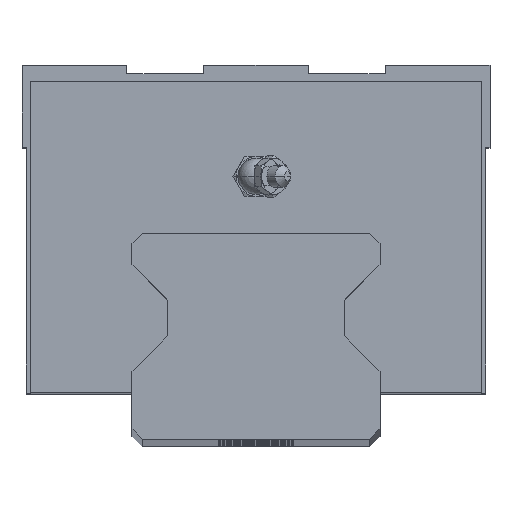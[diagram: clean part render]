
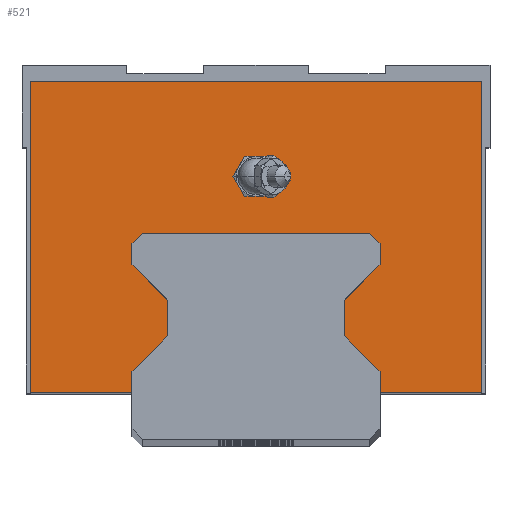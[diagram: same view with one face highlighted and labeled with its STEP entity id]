
A CAD part, top view. The second image highlights one B-rep face of the part: STEP entity #521.
In plain terms, the highlighted planar face has unit normal (0, 0, 1).
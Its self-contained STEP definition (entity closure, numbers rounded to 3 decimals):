
#521=ADVANCED_FACE('',(#1237,#1238),#1239,.T.);
#1237=FACE_BOUND('',#2170,.T.);
#1238=FACE_OUTER_BOUND('',#2171,.T.);
#1239=PLANE('',#2172);
#2170=EDGE_LOOP('',(#3645,#3646));
#2171=EDGE_LOOP('',(#3647,#3648,#3649,#3650,#3651,#3652,#3653,#3654,#3655,#3656,#3657,#3658,#3659,#3660,#3661,#3662,#3663,#3664));
#2172=AXIS2_PLACEMENT_3D('',#3665,#3666,#3667);
#3645=ORIENTED_EDGE('',*,*,#5801,.T.);
#3646=ORIENTED_EDGE('',*,*,#5802,.T.);
#3647=ORIENTED_EDGE('',*,*,#5511,.F.);
#3648=ORIENTED_EDGE('',*,*,#5803,.F.);
#3649=ORIENTED_EDGE('',*,*,#5804,.F.);
#3650=ORIENTED_EDGE('',*,*,#5805,.F.);
#3651=ORIENTED_EDGE('',*,*,#5806,.F.);
#3652=ORIENTED_EDGE('',*,*,#5782,.F.);
#3653=ORIENTED_EDGE('',*,*,#5807,.F.);
#3654=ORIENTED_EDGE('',*,*,#5808,.F.);
#3655=ORIENTED_EDGE('',*,*,#5809,.F.);
#3656=ORIENTED_EDGE('',*,*,#5810,.F.);
#3657=ORIENTED_EDGE('',*,*,#5737,.F.);
#3658=ORIENTED_EDGE('',*,*,#5469,.F.);
#3659=ORIENTED_EDGE('',*,*,#5758,.F.);
#3660=ORIENTED_EDGE('',*,*,#5614,.F.);
#3661=ORIENTED_EDGE('',*,*,#5533,.F.);
#3662=ORIENTED_EDGE('',*,*,#5811,.F.);
#3663=ORIENTED_EDGE('',*,*,#5812,.F.);
#3664=ORIENTED_EDGE('',*,*,#5813,.F.);
#3665=CARTESIAN_POINT('',(0.,44.42,-58.15));
#3666=DIRECTION('',(0.,0.,1.0));
#3667=DIRECTION('',(1.0,0.0,0.));
#5469=EDGE_CURVE('',#6591,#6594,#6595,.T.);
#5511=EDGE_CURVE('',#6660,#6663,#6664,.T.);
#5533=EDGE_CURVE('',#6699,#6702,#6703,.T.);
#5614=EDGE_CURVE('',#6702,#6835,#6836,.T.);
#5737=EDGE_CURVE('',#6594,#7022,#7023,.T.);
#5758=EDGE_CURVE('',#6835,#6591,#7052,.T.);
#5782=EDGE_CURVE('',#7085,#7087,#7088,.T.);
#5801=EDGE_CURVE('',#7111,#7112,#7113,.T.);
#5802=EDGE_CURVE('',#7112,#7111,#7114,.T.);
#5803=EDGE_CURVE('',#7115,#6660,#7116,.T.);
#5804=EDGE_CURVE('',#7117,#7115,#7118,.T.);
#5805=EDGE_CURVE('',#7119,#7117,#7120,.T.);
#5806=EDGE_CURVE('',#7087,#7119,#7121,.T.);
#5807=EDGE_CURVE('',#7122,#7085,#7123,.T.);
#5808=EDGE_CURVE('',#7124,#7122,#7125,.T.);
#5809=EDGE_CURVE('',#7126,#7124,#7127,.T.);
#5810=EDGE_CURVE('',#7022,#7126,#7128,.T.);
#5811=EDGE_CURVE('',#7129,#6699,#7130,.T.);
#5812=EDGE_CURVE('',#7131,#7129,#7132,.T.);
#5813=EDGE_CURVE('',#6663,#7131,#7133,.T.);
#6591=VERTEX_POINT('',#8175);
#6594=VERTEX_POINT('',#8179);
#6595=LINE('',#8180,#8181);
#6660=VERTEX_POINT('',#8268);
#6663=VERTEX_POINT('',#8272);
#6664=LINE('',#8273,#8274);
#6699=VERTEX_POINT('',#8335);
#6702=VERTEX_POINT('',#8339);
#6703=LINE('',#8340,#8341);
#6835=VERTEX_POINT('',#8564);
#6836=LINE('',#8565,#8566);
#7022=VERTEX_POINT('',#8888);
#7023=LINE('',#8889,#8890);
#7052=LINE('',#8992,#8993);
#7085=VERTEX_POINT('',#9056);
#7087=VERTEX_POINT('',#9059);
#7088=LINE('',#9060,#9061);
#7111=VERTEX_POINT('',#9089);
#7112=VERTEX_POINT('',#9090);
#7113=CIRCLE('',#9091,3.87);
#7114=CIRCLE('',#9092,3.87);
#7115=VERTEX_POINT('',#9093);
#7116=LINE('',#9094,#9095);
#7117=VERTEX_POINT('',#9096);
#7118=LINE('',#9097,#9098);
#7119=VERTEX_POINT('',#9099);
#7120=LINE('',#9100,#9101);
#7121=LINE('',#9102,#9103);
#7122=VERTEX_POINT('',#9104);
#7123=LINE('',#9105,#9106);
#7124=VERTEX_POINT('',#9107);
#7125=LINE('',#9108,#9109);
#7126=VERTEX_POINT('',#9110);
#7127=LINE('',#9111,#9112);
#7128=LINE('',#9113,#9114);
#7129=VERTEX_POINT('',#9115);
#7130=LINE('',#9116,#9117);
#7131=VERTEX_POINT('',#9118);
#7132=LINE('',#9119,#9120);
#7133=LINE('',#9121,#9122);
#8175=CARTESIAN_POINT('',(-26.5,41.8,-58.15));
#8179=CARTESIAN_POINT('',(-26.5,37.4,-58.15));
#8180=CARTESIAN_POINT('',(-26.5,41.8,-58.15));
#8181=VECTOR('',#10326,1000.0);
#8268=CARTESIAN_POINT('',(26.5,14.4,-58.15));
#8272=CARTESIAN_POINT('',(18.833,22.067,-58.15));
#8273=CARTESIAN_POINT('',(26.5,14.4,-58.15));
#8274=VECTOR('',#10380,1000.0);
#8335=CARTESIAN_POINT('',(26.5,41.8,-58.15));
#8339=CARTESIAN_POINT('',(24.3,44.0,-58.15));
#8340=CARTESIAN_POINT('',(26.5,41.8,-58.15));
#8341=VECTOR('',#10416,1000.0);
#8564=CARTESIAN_POINT('',(-24.3,44.0,-58.15));
#8565=CARTESIAN_POINT('',(24.3,44.0,-58.15));
#8566=VECTOR('',#10515,1000.0);
#8888=CARTESIAN_POINT('',(-18.833,29.733,-58.15));
#8889=CARTESIAN_POINT('',(-26.5,37.4,-58.15));
#8890=VECTOR('',#10664,1000.0);
#8992=CARTESIAN_POINT('',(-24.3,44.0,-58.15));
#8993=VECTOR('',#10678,1000.0);
#9056=CARTESIAN_POINT('',(-48.25,10.0,-58.15));
#9059=CARTESIAN_POINT('',(-48.25,76.5,-58.15));
#9060=CARTESIAN_POINT('',(-48.25,10.0,-58.15));
#9061=VECTOR('',#10716,1000.0);
#9089=CARTESIAN_POINT('',(3.87,56.25,-58.15));
#9090=CARTESIAN_POINT('',(-3.87,56.25,-58.15));
#9091=AXIS2_PLACEMENT_3D('',#10743,#10744,#10745);
#9092=AXIS2_PLACEMENT_3D('',#10746,#10747,#10748);
#9093=CARTESIAN_POINT('',(26.5,10.0,-58.15));
#9094=CARTESIAN_POINT('',(26.5,10.0,-58.15));
#9095=VECTOR('',#10749,1000.0);
#9096=CARTESIAN_POINT('',(48.25,10.0,-58.15));
#9097=CARTESIAN_POINT('',(48.25,10.0,-58.15));
#9098=VECTOR('',#10750,1000.0);
#9099=CARTESIAN_POINT('',(48.25,76.5,-58.15));
#9100=CARTESIAN_POINT('',(48.25,76.5,-58.15));
#9101=VECTOR('',#10751,1000.0);
#9102=CARTESIAN_POINT('',(-48.25,76.5,-58.15));
#9103=VECTOR('',#10752,1000.0);
#9104=CARTESIAN_POINT('',(-26.5,10.0,-58.15));
#9105=CARTESIAN_POINT('',(-48.25,10.0,-58.15));
#9106=VECTOR('',#10753,1000.0);
#9107=CARTESIAN_POINT('',(-26.5,14.4,-58.15));
#9108=CARTESIAN_POINT('',(-26.5,14.4,-58.15));
#9109=VECTOR('',#10754,1000.0);
#9110=CARTESIAN_POINT('',(-18.833,22.067,-58.15));
#9111=CARTESIAN_POINT('',(-18.833,22.067,-58.15));
#9112=VECTOR('',#10755,1000.0);
#9113=CARTESIAN_POINT('',(-18.833,29.733,-58.15));
#9114=VECTOR('',#10756,1000.0);
#9115=CARTESIAN_POINT('',(26.5,37.4,-58.15));
#9116=CARTESIAN_POINT('',(26.5,37.4,-58.15));
#9117=VECTOR('',#10757,1000.0);
#9118=CARTESIAN_POINT('',(18.833,29.733,-58.15));
#9119=CARTESIAN_POINT('',(18.833,29.733,-58.15));
#9120=VECTOR('',#10758,1000.0);
#9121=CARTESIAN_POINT('',(18.833,22.067,-58.15));
#9122=VECTOR('',#10759,1000.0);
#10326=DIRECTION('',(0.0,-1.0,0.0));
#10380=DIRECTION('',(-0.707,0.707,0.0));
#10416=DIRECTION('',(-0.707,0.707,0.0));
#10515=DIRECTION('',(-1.0,0.0,0.0));
#10664=DIRECTION('',(0.707,-0.707,0.0));
#10678=DIRECTION('',(-0.707,-0.707,0.0));
#10716=DIRECTION('',(0.0,1.0,0.0));
#10743=CARTESIAN_POINT('',(0.0,56.25,-58.15));
#10744=DIRECTION('',(0.,0.,-1.0));
#10745=DIRECTION('',(1.0,0.,0.));
#10746=CARTESIAN_POINT('',(0.0,56.25,-58.15));
#10747=DIRECTION('',(0.,0.,-1.0));
#10748=DIRECTION('',(1.0,0.,0.));
#10749=DIRECTION('',(0.0,1.0,0.0));
#10750=DIRECTION('',(-1.0,0.0,0.0));
#10751=DIRECTION('',(0.0,-1.0,0.0));
#10752=DIRECTION('',(1.0,0.0,0.0));
#10753=DIRECTION('',(-1.0,-0.0,-0.0));
#10754=DIRECTION('',(0.0,-1.0,0.0));
#10755=DIRECTION('',(-0.707,-0.707,0.0));
#10756=DIRECTION('',(0.0,-1.0,0.0));
#10757=DIRECTION('',(0.0,1.0,0.0));
#10758=DIRECTION('',(0.707,0.707,0.0));
#10759=DIRECTION('',(0.0,1.0,0.0));
